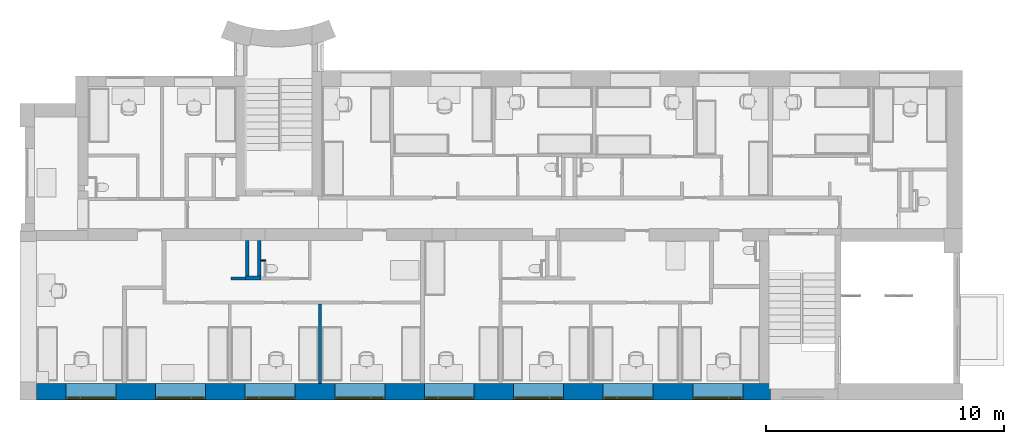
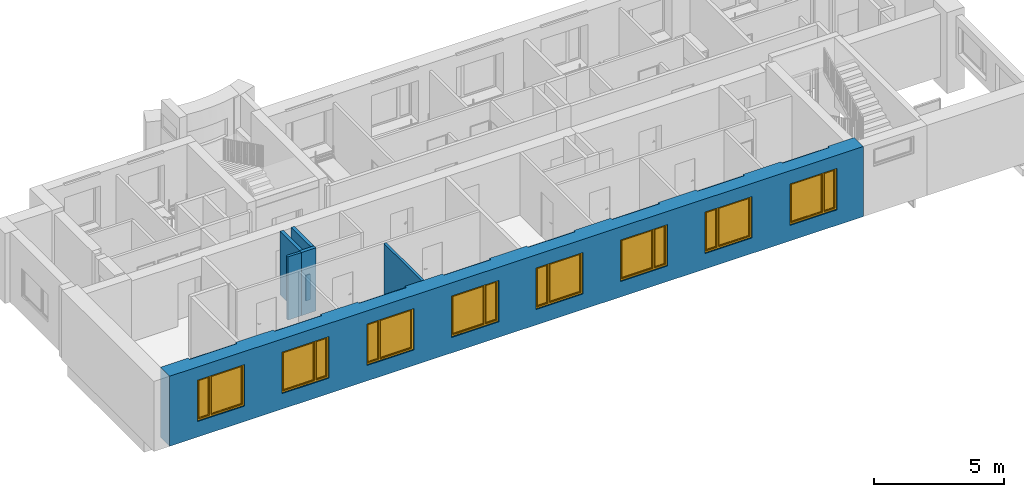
# One storey, part 5 of 46: 8 windows, 7 walls, 10 openings.
"""IFC2X3 building model written with IfcOpenShell, lengths in millimetres."""

from ifc_helpers import new_model, entity, si_unit, converted_unit, derived_unit, direction, frame, frame_2d, origin, place, context, subcontext, project, spatial, rectangle, extrude, faceted_brep, source, transform, mapped, material, material_list, layer, layer_set, layer_usage, type_object, type_shapes, element, fill, save


model = new_model("IFC2X3")

# Units and contexts
model_context = context("Model", 3, precision=0.01, world=origin(), true_north=direction((6.12303176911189e-17, 1.0)))
body_context = subcontext(model_context, "Body", "Model", "MODEL_VIEW")
ifc_project = project(units=[si_unit("LENGTHUNIT", "METRE", prefix="MILLI"), si_unit("AREAUNIT", "SQUARE_METRE"), si_unit("VOLUMEUNIT", "CUBIC_METRE"), converted_unit("PLANEANGLEUNIT", "DEGREE", entity("IfcRatioMeasure", 0.0174532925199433), si_unit("PLANEANGLEUNIT", "RADIAN"), dimensions=[0, 0, 0, 0, 0, 0, 0]), si_unit("MASSUNIT", "GRAM", prefix="KILO"), derived_unit("MASSDENSITYUNIT", [(si_unit("MASSUNIT", "GRAM", prefix="KILO"), 1), (si_unit("LENGTHUNIT", "METRE"), -3)]), si_unit("TIMEUNIT", "SECOND"), si_unit("FREQUENCYUNIT", "HERTZ"), si_unit("THERMODYNAMICTEMPERATUREUNIT", "DEGREE_CELSIUS"), derived_unit("THERMALTRANSMITTANCEUNIT", [(si_unit("MASSUNIT", "GRAM", prefix="KILO"), 1), (si_unit("THERMODYNAMICTEMPERATUREUNIT", "KELVIN"), -1), (si_unit("TIMEUNIT", "SECOND"), -3)]), derived_unit("VOLUMETRICFLOWRATEUNIT", [(si_unit("LENGTHUNIT", "METRE"), 3), (si_unit("TIMEUNIT", "SECOND"), -1)]), si_unit("ELECTRICCURRENTUNIT", "AMPERE"), si_unit("ELECTRICVOLTAGEUNIT", "VOLT"), si_unit("POWERUNIT", "WATT"), si_unit("FORCEUNIT", "NEWTON", prefix="KILO"), si_unit("ILLUMINANCEUNIT", "LUX"), si_unit("LUMINOUSFLUXUNIT", "LUMEN"), si_unit("LUMINOUSINTENSITYUNIT", "CANDELA"), derived_unit("USERDEFINED", [(si_unit("MASSUNIT", "GRAM", prefix="KILO"), -1), (si_unit("LENGTHUNIT", "METRE"), -2), (si_unit("TIMEUNIT", "SECOND"), 3), (si_unit("LUMINOUSFLUXUNIT", "LUMEN"), 1)]), derived_unit("LINEARVELOCITYUNIT", [(si_unit("LENGTHUNIT", "METRE"), 1), (si_unit("TIMEUNIT", "SECOND"), -1)]), si_unit("PRESSUREUNIT", "PASCAL"), derived_unit("USERDEFINED", [(si_unit("LENGTHUNIT", "METRE"), -2), (si_unit("MASSUNIT", "GRAM", prefix="KILO"), 1), (si_unit("TIMEUNIT", "SECOND"), -2)]), derived_unit("LINEARFORCEUNIT", [(si_unit("MASSUNIT", "GRAM", prefix="KILO"), 1), (si_unit("LENGTHUNIT", "METRE"), 1), (si_unit("TIMEUNIT", "SECOND"), -2), (si_unit("LENGTHUNIT", "METRE"), -1)]), derived_unit("PLANARFORCEUNIT", [(si_unit("MASSUNIT", "GRAM", prefix="KILO"), 1), (si_unit("LENGTHUNIT", "METRE"), 1), (si_unit("TIMEUNIT", "SECOND"), -2), (si_unit("LENGTHUNIT", "METRE"), -2)])], contexts=[model_context])

# Site, building, storey
site_placement = place(None, origin())
site = spatial("IfcSite", under=ifc_project, at=site_placement, Name="Default", CompositionType="ELEMENT")
building_placement = place(site_placement, origin())
building = spatial("IfcBuilding", under=site, at=building_placement, Name="SMA ARH", CompositionType="ELEMENT")
storey_placement = place(building_placement, origin())
storey = spatial("IfcBuildingStorey", under=building, at=storey_placement, Name="1 Korrus", CompositionType="ELEMENT", Elevation=0.0)

# Wall, openings, windows
ifc_material_1 = material(Name="_ol.olev sein")
ifc_layer_1 = layer(ifc_material_1, 700.0)
ifc_layer_set_1 = layer_set([ifc_layer_1], Name="Basic Wall:Generic - 700mm")
ifc_layer_usage_1 = layer_usage(ifc_layer_set_1, "AXIS2", "POSITIVE", -350.0)
wall_type_1 = type_object("IfcWallType", Name="Basic Wall:Generic - 700mm", PredefinedType="STANDARD", material=ifc_layer_set_1)
wall_1_placement = place(storey_placement, frame((0.0, -350.0, 0.0)))
wall_1 = element("IfcWallStandardCase", 1, at=wall_1_placement, inside=storey, type_object=wall_type_1, material=ifc_layer_usage_1, Name="Basic Wall:Generic - 700mm", ObjectType="Basic Wall:Generic - 700mm", context=body_context, shape_type="SweptSolid", body=[
    extrude(rectangle(XDim=30900.698001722, YDim=700.0, at=frame_2d((15450.349000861, -2.8421709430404e-14), x_axis=(-1.0, 0.0))), origin(), (0.0, 0.0, 1.0), 3299.99999999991),
])
opening_1_placement = place(wall_1_placement, origin())
element("IfcOpeningElement", 2, at=opening_1_placement, cuts=wall_1, Name="Basic Wall:Generic - 700mm", ObjectType="Recess", context=body_context, shape_type="SweptSolid", body=[
    extrude(rectangle(XDim=761.050000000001, YDim=2098.41008000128, at=frame_2d((-2.1600499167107e-12, 5.6843418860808e-14), x_axis=(0.0, 1.0))), frame((28680.7949599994, 250.0, 319.475), z_axis=(0.0, 1.0, 0.0), x_axis=(1.0, 0.0, 0.0)), (0.0, 0.0, 1.0), 100.0),
    extrude(rectangle(XDim=761.050000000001, YDim=2098.41008000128, at=frame_2d((-2.1600499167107e-12, 5.6843418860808e-14), x_axis=(0.0, 1.0))), frame((24895.7949599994, 250.0, 319.475000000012), z_axis=(0.0, 1.0, 0.0), x_axis=(1.0, 0.0, 0.0)), (0.0, 0.0, 1.0), 100.0),
    extrude(rectangle(XDim=761.050000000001, YDim=2098.41008000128, at=frame_2d((-2.1600499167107e-12, 5.6843418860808e-14), x_axis=(0.0, 1.0))), frame((21130.7949599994, 250.0, 319.475000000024), z_axis=(0.0, 1.0, 0.0), x_axis=(1.0, 0.0, 0.0)), (0.0, 0.0, 1.0), 100.0),
    extrude(rectangle(XDim=761.050000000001, YDim=2098.41008000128, at=frame_2d((0.0, 5.6843418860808e-14), x_axis=(0.0, 1.0))), frame((17370.7949599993, 250.0, 319.475000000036), z_axis=(0.0, 1.0, 0.0), x_axis=(1.0, 0.0, 0.0)), (0.0, 0.0, 1.0), 100.0),
    extrude(rectangle(XDim=761.050000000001, YDim=2098.41008000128, at=frame_2d((2.1600499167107e-12, 5.6843418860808e-14), x_axis=(0.0, 1.0))), frame((13610.7949599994, 250.0, 319.475000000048), z_axis=(0.0, 1.0, 0.0), x_axis=(1.0, 0.0, 0.0)), (0.0, 0.0, 1.0), 100.0),
    extrude(rectangle(XDim=761.050000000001, YDim=2098.41008000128, at=frame_2d((0.0, 5.6843418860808e-14), x_axis=(0.0, 1.0))), frame((9830.79495999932, 250.0, 319.47500000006), z_axis=(0.0, 1.0, 0.0), x_axis=(1.0, 0.0, 0.0)), (0.0, 0.0, 1.0), 100.0),
    extrude(rectangle(XDim=761.050000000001, YDim=2098.41008000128, at=frame_2d((0.0, 5.6843418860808e-14), x_axis=(0.0, 1.0))), frame((6050.79495999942, 250.0, 319.475000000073), z_axis=(0.0, 1.0, 0.0), x_axis=(1.0, 0.0, 0.0)), (0.0, 0.0, 1.0), 100.0),
    extrude(rectangle(XDim=761.050000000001, YDim=2098.41008000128, at=frame_2d((1.13686837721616e-13, 5.6843418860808e-14), x_axis=(0.0, 1.0))), frame((2290.79495999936, 250.0, 319.475000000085), z_axis=(0.0, 1.0, 0.0), x_axis=(1.0, 0.0, 0.0)), (0.0, 0.0, 1.0), 100.0),
    extrude(rectangle(XDim=761.05, YDim=2098.41008000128, at=frame_2d((2.1600499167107e-12, 0.0), x_axis=(0.0, 1.0))), frame((28680.7949599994, 250.0, 3619.47499999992), z_axis=(0.0, 1.0, 0.0), x_axis=(1.0, 0.0, 0.0)), (0.0, 0.0, 1.0), 100.0),
    extrude(rectangle(XDim=761.05, YDim=2098.41008000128, at=frame_2d((-2.1600499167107e-12, 0.0), x_axis=(0.0, 1.0))), frame((24895.7949599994, 250.0, 3619.47499999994), z_axis=(0.0, 1.0, 0.0), x_axis=(1.0, 0.0, 0.0)), (0.0, 0.0, 1.0), 100.0),
    extrude(rectangle(XDim=761.05, YDim=2098.41008000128, at=frame_2d((-2.1600499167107e-12, 0.0), x_axis=(0.0, 1.0))), frame((21110.7949599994, 250.0, 3619.47499999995), z_axis=(0.0, 1.0, 0.0), x_axis=(1.0, 0.0, 0.0)), (0.0, 0.0, 1.0), 100.0),
    extrude(rectangle(XDim=761.05, YDim=2098.41008000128, at=frame_2d((-2.1600499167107e-12, 0.0), x_axis=(0.0, 1.0))), frame((17355.7949599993, 250.0, 3619.47499999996), z_axis=(0.0, 1.0, 0.0), x_axis=(1.0, 0.0, 0.0)), (0.0, 0.0, 1.0), 100.0),
    extrude(rectangle(XDim=761.05, YDim=2098.41008000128, at=frame_2d((2.1600499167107e-12, 0.0), x_axis=(0.0, 1.0))), frame((13610.7949599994, 250.0, 3619.47499999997), z_axis=(0.0, 1.0, 0.0), x_axis=(1.0, 0.0, 0.0)), (0.0, 0.0, 1.0), 100.0),
    extrude(rectangle(XDim=761.05, YDim=2098.41008000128, at=frame_2d((0.0, 0.0), x_axis=(0.0, 1.0))), frame((9830.79495999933, 250.0, 3619.47499999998), z_axis=(0.0, 1.0, 0.0), x_axis=(1.0, 0.0, 0.0)), (0.0, 0.0, 1.0), 100.0),
    extrude(rectangle(XDim=761.05, YDim=2098.41008000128, at=frame_2d((0.0, 0.0), x_axis=(0.0, 1.0))), frame((6070.79495999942, 250.0, 3619.47499999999), z_axis=(0.0, 1.0, 0.0), x_axis=(1.0, 0.0, 0.0)), (0.0, 0.0, 1.0), 100.0),
    extrude(rectangle(XDim=761.05, YDim=2098.41008000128, at=frame_2d((1.13686837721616e-13, 0.0), x_axis=(0.0, 1.0))), frame((2290.79495999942, 250.0, 3619.47500000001), z_axis=(0.0, 1.0, 0.0), x_axis=(1.0, 0.0, 0.0)), (0.0, 0.0, 1.0), 100.0),
])
opening_2_placement = place(wall_1_placement, origin())
element("IfcOpeningElement", 3, at=opening_2_placement, cuts=wall_1, Name="Basic Wall:Generic - 700mm", ObjectType="Opening", context=body_context, shape_type="SweptSolid", body=[
    extrude(rectangle(XDim=820.0, YDim=1800.0, at=frame_2d((0.0, 1.4210854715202e-13), x_axis=(0.0, 1.0))), frame((32250.0, -1404.0, 2600.0), z_axis=(0.0, 1.0, 0.0), x_axis=(-1.0, 0.0, 0.0)), (0.0, 0.0, 1.0), 3048.0),
])
opening_3_placement = place(wall_1_placement, frame((29730.0, 350.0, 730.0)))
opening_3 = element("IfcOpeningElement", 4, at=opening_3_placement, cuts=wall_1, Name="SMA_W2, 2-jaotus:A-00 - 2100x1900:1", ObjectType="Opening", context=body_context, shape_type="SweptSolid", body=[
    extrude(rectangle(XDim=1950.0, YDim=2100.0, at=frame_2d((975.0, 1050.0), x_axis=(1.0, 0.0))), frame((0.0, 0.0, 0.0), z_axis=(0.0, -1.0, 0.0), x_axis=(0.0, 0.0, 1.0)), (0.0, 0.0, 1.0), 700.0),
])
opening_4_placement = place(wall_1_placement, frame((25945.0, 350.0, 730.0)))
opening_4 = element("IfcOpeningElement", 5, at=opening_4_placement, cuts=wall_1, Name="SMA_W2, 2-jaotus:A-00 - 2100x1900:1", ObjectType="Opening", context=body_context, shape_type="SweptSolid", body=[
    extrude(rectangle(XDim=1950.0, YDim=2100.0, at=frame_2d((975.0, 1050.0), x_axis=(1.0, 0.0))), frame((0.0, 0.0, 0.0), z_axis=(0.0, -1.0, 0.0), x_axis=(0.0, 0.0, 1.0)), (0.0, 0.0, 1.0), 700.0),
])
opening_5_placement = place(wall_1_placement, frame((22180.0, 350.0, 730.0)))
opening_5 = element("IfcOpeningElement", 6, at=opening_5_placement, cuts=wall_1, Name="SMA_W2, 2-jaotus:A-00 - 2100x1900:1", ObjectType="Opening", context=body_context, shape_type="SweptSolid", body=[
    extrude(rectangle(XDim=1950.0, YDim=2100.0, at=frame_2d((975.0, 1050.0), x_axis=(1.0, 0.0))), frame((0.0, 0.0, 0.0), z_axis=(0.0, -1.0, 0.0), x_axis=(0.0, 0.0, 1.0)), (0.0, 0.0, 1.0), 700.0),
])
opening_6_placement = place(wall_1_placement, frame((18420.0, 350.0, 730.0)))
opening_6 = element("IfcOpeningElement", 7, at=opening_6_placement, cuts=wall_1, Name="SMA_W2, 2-jaotus:A-00 - 2100x1900:1", ObjectType="Opening", context=body_context, shape_type="SweptSolid", body=[
    extrude(rectangle(XDim=1950.0, YDim=2100.0, at=frame_2d((975.0, 1050.0), x_axis=(1.0, 0.0))), frame((0.0, 0.0, 0.0), z_axis=(0.0, -1.0, 0.0), x_axis=(0.0, 0.0, 1.0)), (0.0, 0.0, 1.0), 700.0),
])
opening_7_placement = place(wall_1_placement, frame((14660.0, 350.0, 730.0)))
opening_7 = element("IfcOpeningElement", 8, at=opening_7_placement, cuts=wall_1, Name="SMA_W2, 2-jaotus:A-00 - 2100x1900:1", ObjectType="Opening", context=body_context, shape_type="SweptSolid", body=[
    extrude(rectangle(XDim=1950.0, YDim=2100.0, at=frame_2d((975.0, 1050.0), x_axis=(1.0, 0.0))), frame((0.0, 0.0, 0.0), z_axis=(0.0, -1.0, 0.0), x_axis=(0.0, 0.0, 1.0)), (0.0, 0.0, 1.0), 700.0),
])
opening_8_placement = place(wall_1_placement, frame((10880.0, 350.0, 730.0)))
opening_8 = element("IfcOpeningElement", 9, at=opening_8_placement, cuts=wall_1, Name="SMA_W2, 2-jaotus:A-00 - 2100x1900:1", ObjectType="Opening", context=body_context, shape_type="SweptSolid", body=[
    extrude(rectangle(XDim=1950.0, YDim=2100.0, at=frame_2d((975.0, 1050.0), x_axis=(1.0, 0.0))), frame((0.0, 0.0, 0.0), z_axis=(0.0, -1.0, 0.0), x_axis=(0.0, 0.0, 1.0)), (0.0, 0.0, 1.0), 700.0),
])
opening_9_placement = place(wall_1_placement, frame((7100.0, 350.0, 730.0)))
opening_9 = element("IfcOpeningElement", 10, at=opening_9_placement, cuts=wall_1, Name="SMA_W2, 2-jaotus:A-00 - 2100x1900:1", ObjectType="Opening", context=body_context, shape_type="SweptSolid", body=[
    extrude(rectangle(XDim=1950.0, YDim=2100.0, at=frame_2d((975.0, 1050.0), x_axis=(1.0, 0.0))), frame((0.0, 0.0, 0.0), z_axis=(0.0, -1.0, 0.0), x_axis=(0.0, 0.0, 1.0)), (0.0, 0.0, 1.0), 700.0),
])
opening_10_placement = place(wall_1_placement, frame((3340.0, 350.0, 730.0)))
opening_10 = element("IfcOpeningElement", 11, at=opening_10_placement, cuts=wall_1, Name="SMA_W2, 2-jaotus:A-00 - 2100x1900:1", ObjectType="Opening", context=body_context, shape_type="SweptSolid", body=[
    extrude(rectangle(XDim=1950.0, YDim=2100.0, at=frame_2d((975.0, 1050.0), x_axis=(1.0, 0.0))), frame((0.0, 0.0, 0.0), z_axis=(0.0, -1.0, 0.0), x_axis=(0.0, 0.0, 1.0)), (0.0, 0.0, 1.0), 700.0),
])
ifc_material_2 = material(Name="Glass")
ifc_material_3 = material(Name="Hall")
ifc_material_list_1 = material_list([ifc_material_2, ifc_material_3])
ifc_material_4 = material(Name="<Unnamed>")
ifc_material_list_2 = material_list([ifc_material_4, ifc_material_3, ifc_material_3, ifc_material_2, ifc_material_4])
window_style_1 = type_object("IfcWindowStyle", Name="SMA_W2, 2-jaotus:A-00 - 2100x1900", ConstructionType="NOTDEFINED", OperationType="NOTDEFINED", ParameterTakesPrecedence=False, Sizeable=False, material=ifc_material_list_2)
shared_shape_1 = source(origin(), body_context, "Body", "Brep", [
    faceted_brep([(1995.0, 590.0, 1845.0), (660.0, 590.0, 1845.0), (660.0, 590.0, 105.0), (1995.0, 590.0, 105.0), (1995.0, 610.0, 105.0), (1995.0, 610.0, 1845.0), (660.0, 610.0, 105.0), (660.0, 610.0, 1845.0)], [[[0, 1, 2, 3]], [[3, 4, 5, 0]], [[2, 6, 4, 3]], [[1, 7, 6, 2]], [[5, 4, 6, 7]], [[0, 5, 7, 1]]]),
    faceted_brep([(520.0, 590.0, 105.0), (520.0, 590.0, 1845.0), (105.0, 590.0, 1845.0), (105.0, 590.0, 105.0), (105.0, 610.0, 105.0), (520.0, 610.0, 105.0), (105.0, 610.0, 1845.0), (520.0, 610.0, 1845.0)], [[[0, 1, 2, 3]], [[3, 4, 5, 0]], [[2, 6, 4, 3]], [[0, 5, 7, 1]], [[5, 4, 6, 7]], [[1, 7, 6, 2]]]),
    faceted_brep([(2065.0, 575.0, 35.0), (2065.0, 575.0, 1915.0), (590.0, 575.0, 1915.0), (590.0, 575.0, 35.0), (660.0, 575.0, 1845.0), (1995.0, 575.0, 1845.0), (1995.0, 575.0, 105.0), (660.0, 575.0, 105.0), (590.0, 625.0, 35.0), (2065.0, 625.0, 35.0), (590.0, 625.0, 1915.0), (2065.0, 625.0, 1915.0), (660.0, 625.0, 105.0), (660.0, 625.0, 1845.0), (1995.0, 625.0, 105.0), (1995.0, 625.0, 1845.0)], [[[0, 1, 2, 3], [4, 5, 6, 7]], [[3, 8, 9, 0]], [[2, 10, 8, 3]], [[0, 9, 11, 1]], [[7, 12, 13, 4]], [[6, 14, 12, 7]], [[5, 15, 14, 6]], [[9, 8, 10, 11], [13, 12, 14, 15]], [[1, 11, 10, 2]], [[4, 13, 15, 5]]]),
    faceted_brep([(590.0, 575.0, 35.0), (590.0, 575.0, 1915.0), (35.0, 575.0, 1915.0), (35.0, 575.0, 35.0), (105.0, 575.0, 1845.0), (520.0, 575.0, 1845.0), (520.0, 575.0, 105.0), (105.0, 575.0, 105.0), (35.0, 625.0, 35.0), (590.0, 625.0, 35.0), (35.0, 625.0, 1915.0), (590.0, 625.0, 1915.0), (105.0, 625.0, 105.0), (105.0, 625.0, 1845.0), (520.0, 625.0, 105.0), (520.0, 625.0, 1845.0)], [[[0, 1, 2, 3], [4, 5, 6, 7]], [[3, 8, 9, 0]], [[2, 10, 8, 3]], [[0, 9, 11, 1]], [[7, 12, 13, 4]], [[6, 14, 12, 7]], [[5, 15, 14, 6]], [[9, 8, 10, 11], [13, 12, 14, 15]], [[1, 11, 10, 2]], [[4, 13, 15, 5]]]),
    faceted_brep([(35.0, 600.0, 35.0), (35.0, 600.0, 1915.0), (590.0, 600.0, 1915.0), (590.0, 600.0, 35.0), (2030.0, 600.0, 1880.0), (2030.0, 600.0, 70.0), (625.0, 600.0, 70.0), (625.0, 600.0, 1880.0), (2100.0, 600.0, 0.0), (2100.0, 600.0, 1950.0), (0.0, 600.0, 1950.0), (0.0, 600.0, 0.0), (0.0, 650.0, 0.0), (2100.0, 650.0, 0.0), (0.0, 650.0, 1950.0), (2100.0, 650.0, 1950.0), (625.0, 650.0, 70.0), (625.0, 650.0, 1880.0), (2030.0, 650.0, 70.0), (2030.0, 650.0, 1880.0), (35.0, 625.0, 35.0), (590.0, 625.0, 35.0), (590.0, 625.0, 1915.0), (35.0, 625.0, 1915.0), (555.0, 650.0, 1880.0), (70.0, 650.0, 1880.0), (70.0, 650.0, 70.0), (555.0, 650.0, 70.0), (555.0, 625.0, 70.0), (555.0, 625.0, 1880.0), (70.0, 625.0, 70.0), (70.0, 625.0, 1880.0)], [[[0, 1, 2, 3], [4, 5, 6, 7], [8, 9, 10, 11]], [[11, 12, 13, 8]], [[10, 14, 12, 11]], [[8, 13, 15, 9]], [[6, 16, 17, 7]], [[5, 18, 16, 6]], [[4, 19, 18, 5]], [[20, 0, 3, 21]], [[21, 3, 2, 22]], [[23, 1, 0, 20]], [[13, 12, 14, 15], [19, 17, 16, 18], [24, 25, 26, 27]], [[27, 28, 29, 24]], [[26, 30, 28, 27]], [[25, 31, 30, 26]], [[21, 22, 23, 20], [29, 28, 30, 31]], [[9, 15, 14, 10]], [[7, 17, 19, 4]], [[22, 2, 1, 23]], [[24, 29, 31, 25]]], outer=[[False, False, True], [True], [True], [True], [True], [True], [True], [True], [True], [True], [True, False, False], [True], [True], [True], [True, False], [True], [True], [True], [True]]),
])
type_shapes(window_style_1, [shared_shape_1])
window_1_placement = place(opening_9_placement, frame((0.0, 0.0, 0.0), z_axis=(0.0, 0.0, 1.0), x_axis=(-1.0, 0.0, 0.0)))
window_1 = element("IfcWindow", 12, at=window_1_placement, inside=storey, type_object=window_style_1, material=ifc_material_list_1, Name="SMA_W2, 2-jaotus:A-00 - 2100x1900", ObjectType="SMA_W2, 2-jaotus:A-00 - 2100x1900", OverallHeight=1950.0, OverallWidth=2100.0, context=body_context, shape_type="MappedRepresentation", body=[
    mapped(shared_shape_1, transform((0.0, 0.0, 0.0), scale=1.0)),
])
fill(opening_9, window_1)
ifc_material_list_3 = material_list([ifc_material_2, ifc_material_3])
window_2_placement = place(opening_7_placement, frame((0.0, 0.0, 0.0), z_axis=(0.0, 0.0, 1.0), x_axis=(-1.0, 0.0, 0.0)))
window_2 = element("IfcWindow", 13, at=window_2_placement, inside=storey, type_object=window_style_1, material=ifc_material_list_3, Name="SMA_W2, 2-jaotus:A-00 - 2100x1900", ObjectType="SMA_W2, 2-jaotus:A-00 - 2100x1900", OverallHeight=1950.0, OverallWidth=2100.0, context=body_context, shape_type="MappedRepresentation", body=[
    mapped(shared_shape_1, transform((0.0, 0.0, 0.0), scale=1.0)),
])
fill(opening_7, window_2)
ifc_material_list_4 = material_list([ifc_material_2, ifc_material_3])
window_3_placement = place(opening_5_placement, frame((0.0, 0.0, 0.0), z_axis=(0.0, 0.0, 1.0), x_axis=(-1.0, 0.0, 0.0)))
window_3 = element("IfcWindow", 14, at=window_3_placement, inside=storey, type_object=window_style_1, material=ifc_material_list_4, Name="SMA_W2, 2-jaotus:A-00 - 2100x1900", ObjectType="SMA_W2, 2-jaotus:A-00 - 2100x1900", OverallHeight=1950.0, OverallWidth=2100.0, context=body_context, shape_type="MappedRepresentation", body=[
    mapped(shared_shape_1, transform((0.0, 0.0, 0.0), scale=1.0)),
])
fill(opening_5, window_3)
ifc_material_list_5 = material_list([ifc_material_2, ifc_material_3])
window_4_placement = place(opening_3_placement, frame((0.0, 0.0, 0.0), z_axis=(0.0, 0.0, 1.0), x_axis=(-1.0, 0.0, 0.0)))
window_4 = element("IfcWindow", 15, at=window_4_placement, inside=storey, type_object=window_style_1, material=ifc_material_list_5, Name="SMA_W2, 2-jaotus:A-00 - 2100x1900", ObjectType="SMA_W2, 2-jaotus:A-00 - 2100x1900", OverallHeight=1950.0, OverallWidth=2100.0, context=body_context, shape_type="MappedRepresentation", body=[
    mapped(shared_shape_1, transform((0.0, 0.0, 0.0), scale=1.0)),
])
fill(opening_3, window_4)
ifc_material_list_6 = material_list([ifc_material_2, ifc_material_3])
ifc_material_list_7 = material_list([ifc_material_3, ifc_material_2, ifc_material_3, ifc_material_4, ifc_material_4])
window_style_2 = type_object("IfcWindowStyle", Name="SMA_W2, 2-jaotus:A-00 - 2100x1900", ConstructionType="NOTDEFINED", OperationType="NOTDEFINED", ParameterTakesPrecedence=False, Sizeable=False, material=ifc_material_list_7)
shared_shape_2 = source(origin(), body_context, "Body", "Brep", [
    faceted_brep([(105.0, 590.0, 1845.0), (105.0, 590.0, 105.0), (1440.0, 590.0, 105.0), (1440.0, 590.0, 1845.0), (105.0, 610.0, 1845.0), (105.0, 610.0, 105.0), (1440.0, 610.0, 105.0), (1440.0, 610.0, 1845.0)], [[[0, 1, 2, 3]], [[1, 0, 4, 5]], [[2, 1, 5, 6]], [[3, 2, 6, 7]], [[4, 7, 6, 5]], [[0, 3, 7, 4]]]),
    faceted_brep([(1580.0, 590.0, 105.0), (1995.0, 590.0, 105.0), (1995.0, 590.0, 1845.0), (1580.0, 590.0, 1845.0), (1580.0, 610.0, 105.0), (1995.0, 610.0, 105.0), (1995.0, 610.0, 1845.0), (1580.0, 610.0, 1845.0)], [[[0, 1, 2, 3]], [[1, 0, 4, 5]], [[2, 1, 5, 6]], [[0, 3, 7, 4]], [[4, 7, 6, 5]], [[3, 2, 6, 7]]]),
    faceted_brep([(35.0, 575.0, 35.0), (1510.0, 575.0, 35.0), (1510.0, 575.0, 1915.0), (35.0, 575.0, 1915.0), (1440.0, 575.0, 1845.0), (1440.0, 575.0, 105.0), (105.0, 575.0, 105.0), (105.0, 575.0, 1845.0), (35.0, 625.0, 35.0), (1510.0, 625.0, 35.0), (1510.0, 625.0, 1915.0), (35.0, 625.0, 1915.0), (1440.0, 625.0, 1845.0), (1440.0, 625.0, 105.0), (105.0, 625.0, 105.0), (105.0, 625.0, 1845.0)], [[[0, 1, 2, 3], [4, 5, 6, 7]], [[1, 0, 8, 9]], [[2, 1, 9, 10]], [[0, 3, 11, 8]], [[5, 4, 12, 13]], [[6, 5, 13, 14]], [[7, 6, 14, 15]], [[8, 11, 10, 9], [12, 15, 14, 13]], [[3, 2, 10, 11]], [[4, 7, 15, 12]]]),
    faceted_brep([(1510.0, 575.0, 35.0), (2065.0, 575.0, 35.0), (2065.0, 575.0, 1915.0), (1510.0, 575.0, 1915.0), (1995.0, 575.0, 1845.0), (1995.0, 575.0, 105.0), (1580.0, 575.0, 105.0), (1580.0, 575.0, 1845.0), (1510.0, 625.0, 35.0), (2065.0, 625.0, 35.0), (2065.0, 625.0, 1915.0), (1510.0, 625.0, 1915.0), (1995.0, 625.0, 1845.0), (1995.0, 625.0, 105.0), (1580.0, 625.0, 105.0), (1580.0, 625.0, 1845.0)], [[[0, 1, 2, 3], [4, 5, 6, 7]], [[1, 0, 8, 9]], [[2, 1, 9, 10]], [[0, 3, 11, 8]], [[5, 4, 12, 13]], [[6, 5, 13, 14]], [[7, 6, 14, 15]], [[8, 11, 10, 9], [12, 15, 14, 13]], [[3, 2, 10, 11]], [[4, 7, 15, 12]]]),
    faceted_brep([(0.0, 600.0, 0.0), (2100.0, 600.0, 0.0), (2100.0, 600.0, 1950.0), (0.0, 600.0, 1950.0), (2065.0, 600.0, 35.0), (1510.0, 600.0, 35.0), (1510.0, 600.0, 1915.0), (2065.0, 600.0, 1915.0), (70.0, 600.0, 1880.0), (1475.0, 600.0, 1880.0), (1475.0, 600.0, 70.0), (70.0, 600.0, 70.0), (0.0, 650.0, 0.0), (2100.0, 650.0, 0.0), (2100.0, 650.0, 1950.0), (0.0, 650.0, 1950.0), (1475.0, 650.0, 1880.0), (1475.0, 650.0, 70.0), (70.0, 650.0, 70.0), (70.0, 650.0, 1880.0), (2065.0, 625.0, 35.0), (1510.0, 625.0, 35.0), (1510.0, 625.0, 1915.0), (2065.0, 625.0, 1915.0), (1545.0, 650.0, 1880.0), (1545.0, 650.0, 70.0), (2030.0, 650.0, 70.0), (2030.0, 650.0, 1880.0), (1545.0, 625.0, 1880.0), (1545.0, 625.0, 70.0), (2030.0, 625.0, 70.0), (2030.0, 625.0, 1880.0)], [[[0, 1, 2, 3], [4, 5, 6, 7], [8, 9, 10, 11]], [[1, 0, 12, 13]], [[2, 1, 13, 14]], [[0, 3, 15, 12]], [[10, 9, 16, 17]], [[11, 10, 17, 18]], [[8, 11, 18, 19]], [[20, 21, 5, 4]], [[21, 22, 6, 5]], [[23, 20, 4, 7]], [[12, 15, 14, 13], [19, 18, 17, 16], [24, 25, 26, 27]], [[25, 24, 28, 29]], [[26, 25, 29, 30]], [[27, 26, 30, 31]], [[21, 20, 23, 22], [28, 31, 30, 29]], [[3, 2, 14, 15]], [[9, 8, 19, 16]], [[22, 23, 7, 6]], [[24, 27, 31, 28]]]),
])
type_shapes(window_style_2, [shared_shape_2])
window_5_placement = place(opening_10_placement, frame((0.0, 0.0, 0.0), z_axis=(0.0, 0.0, 1.0), x_axis=(-1.0, 0.0, 0.0)))
window_5 = element("IfcWindow", 16, at=window_5_placement, inside=storey, type_object=window_style_2, material=ifc_material_list_6, Name="SMA_W2, 2-jaotus:A-00 - 2100x1900", ObjectType="SMA_W2, 2-jaotus:A-00 - 2100x1900", OverallHeight=1950.0, OverallWidth=2100.0, context=body_context, shape_type="MappedRepresentation", body=[
    mapped(shared_shape_2, transform((0.0, 0.0, 0.0), scale=1.0)),
])
fill(opening_10, window_5)
ifc_material_list_8 = material_list([ifc_material_2, ifc_material_3])
window_6_placement = place(opening_8_placement, frame((0.0, 0.0, 0.0), z_axis=(0.0, 0.0, 1.0), x_axis=(-1.0, 0.0, 0.0)))
window_6 = element("IfcWindow", 17, at=window_6_placement, inside=storey, type_object=window_style_2, material=ifc_material_list_8, Name="SMA_W2, 2-jaotus:A-00 - 2100x1900", ObjectType="SMA_W2, 2-jaotus:A-00 - 2100x1900", OverallHeight=1950.0, OverallWidth=2100.0, context=body_context, shape_type="MappedRepresentation", body=[
    mapped(shared_shape_2, transform((0.0, 0.0, 0.0), scale=1.0)),
])
fill(opening_8, window_6)
ifc_material_list_9 = material_list([ifc_material_2, ifc_material_3])
window_7_placement = place(opening_6_placement, frame((0.0, 0.0, 0.0), z_axis=(0.0, 0.0, 1.0), x_axis=(-1.0, 0.0, 0.0)))
window_7 = element("IfcWindow", 18, at=window_7_placement, inside=storey, type_object=window_style_2, material=ifc_material_list_9, Name="SMA_W2, 2-jaotus:A-00 - 2100x1900", ObjectType="SMA_W2, 2-jaotus:A-00 - 2100x1900", OverallHeight=1950.0, OverallWidth=2100.0, context=body_context, shape_type="MappedRepresentation", body=[
    mapped(shared_shape_2, transform((0.0, 0.0, 0.0), scale=1.0)),
])
fill(opening_6, window_7)
ifc_material_list_10 = material_list([ifc_material_2, ifc_material_3])
window_8_placement = place(opening_4_placement, frame((0.0, 0.0, 0.0), z_axis=(0.0, 0.0, 1.0), x_axis=(-1.0, 0.0, 0.0)))
window_8 = element("IfcWindow", 19, at=window_8_placement, inside=storey, type_object=window_style_2, material=ifc_material_list_10, Name="SMA_W2, 2-jaotus:A-00 - 2100x1900", ObjectType="SMA_W2, 2-jaotus:A-00 - 2100x1900", OverallHeight=1950.0, OverallWidth=2100.0, context=body_context, shape_type="MappedRepresentation", body=[
    mapped(shared_shape_2, transform((0.0, 0.0, 0.0), scale=1.0)),
])
fill(opening_4, window_8)

# Walls
ifc_material_5 = material(Name="EST. Müüritis. Väikeplokk. Kergkruusplokk")
ifc_layer_2 = layer(ifc_material_5, 150.0)
ifc_layer_set_2 = layer_set([ifc_layer_2], Name="Basic Wall:SS-02_ 150mm šahtide vahesein")
ifc_layer_usage_2 = layer_usage(ifc_layer_set_2, "AXIS2", "NEGATIVE", 75.0)
wall_type_2 = type_object("IfcWallType", Name="Basic Wall:SS-02_ 150mm šahtide vahesein", PredefinedType="STANDARD", material=ifc_layer_set_2)
wall_2_placement = place(storey_placement, frame((8790.0, 4435.0, 0.0)))
element("IfcWallStandardCase", 20, at=wall_2_placement, inside=storey, type_object=wall_type_2, material=ifc_layer_usage_2, Name="Basic Wall:SS-02_ 150mm šahtide vahesein", ObjectType="Basic Wall:SS-02_ 150mm šahtide vahesein", context=body_context, shape_type="SweptSolid", body=[
    extrude(rectangle(XDim=650.000000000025, YDim=150.000000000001, at=frame_2d((325.000000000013, -7.105427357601e-14), x_axis=(-1.0, 0.0))), origin(), (0.0, 0.0, 1.0), 2979.99999999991),
])
ifc_layer_usage_3 = layer_usage(ifc_layer_set_2, "AXIS2", "NEGATIVE", 75.0)
wall_3_placement = place(storey_placement, frame((9365.0, 4510.0, 0.0), z_axis=(0.0, 0.0, 1.0), x_axis=(0.0, 1.0, 0.0)))
element("IfcWallStandardCase", 21, at=wall_3_placement, inside=storey, type_object=wall_type_2, material=ifc_layer_usage_3, Name="Basic Wall:SS-02_ 150mm šahtide vahesein", ObjectType="Basic Wall:SS-02_ 150mm šahtide vahesein", context=body_context, shape_type="SweptSolid", body=[
    extrude(rectangle(XDim=1500.00000000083, YDim=150.000000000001, at=frame_2d((750.000000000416, 0.0), x_axis=(-1.0, 0.0))), origin(), (0.0, 0.0, 1.0), 2989.99999999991),
])
ifc_layer_usage_4 = layer_usage(ifc_layer_set_2, "AXIS2", "POSITIVE", -75.0)
wall_4_placement = place(storey_placement, frame((8865.0, 4510.0, 0.0), z_axis=(0.0, 0.0, 1.0), x_axis=(0.0, 1.0, 0.0)))
element("IfcWallStandardCase", 22, at=wall_4_placement, inside=storey, type_object=wall_type_2, material=ifc_layer_usage_4, Name="Basic Wall:SS-02_ 150mm šahtide vahesein", ObjectType="Basic Wall:SS-02_ 150mm šahtide vahesein", context=body_context, shape_type="SweptSolid", body=[
    extrude(rectangle(XDim=1500.00000000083, YDim=150.000000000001, at=frame_2d((750.000000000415, 0.0), x_axis=(-1.0, 0.0))), origin(), (0.0, 0.0, 1.0), 2979.99999999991),
])
ifc_material_6 = material(Name="EST. Ehitusplaat. Kipsplaat")
ifc_layer_3 = layer(ifc_material_6, 12.5)
ifc_layer_4 = layer(ifc_material_6, 12.5)
ifc_material_7 = material(Name="EST. Soojustus. Mineraalvill. Default")
ifc_layer_5 = layer(ifc_material_7, 66.0)
ifc_layer_6 = layer(ifc_material_6, 12.5)
ifc_layer_7 = layer(ifc_material_6, 12.5)
ifc_layer_set_3 = layer_set([ifc_layer_3, ifc_layer_4, ifc_layer_5, ifc_layer_6, ifc_layer_7], Name="Basic Wall:SS-05_Kips, 66mm metallkarkass")
ifc_layer_usage_5 = layer_usage(ifc_layer_set_3, "AXIS2", "NEGATIVE", 58.0)
wall_type_3 = type_object("IfcWallType", Name="Basic Wall:SS-05_Kips, 66mm metallkarkass", PredefinedType="STANDARD", material=ifc_layer_set_3)
wall_5_placement = place(storey_placement, frame((11930.0, 0.0, 0.0), z_axis=(0.0, 0.0, 1.0), x_axis=(0.0, 1.0, 0.0)))
element("IfcWallStandardCase", 23, at=wall_5_placement, inside=storey, type_object=wall_type_3, material=ifc_layer_usage_5, Name="Basic Wall:SS-05_Kips, 66mm metallkarkass", ObjectType="Basic Wall:SS-05_Kips, 66mm metallkarkass", context=body_context, shape_type="SweptSolid", body=[
    extrude(rectangle(XDim=3344.00000000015, YDim=116.0, at=frame_2d((1672.00000000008, 1.4210854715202e-14), x_axis=(-1.0, 0.0))), origin(), (0.0, 0.0, 1.0), 2949.99999999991),
])
ifc_layer_8 = layer(ifc_material_6, 12.5)
ifc_layer_9 = layer(ifc_material_6, 12.5)
ifc_material_8 = material(Name="EST. Õhkvahe. Roov. Kipsplaadi alusroov. Vertikaalne")
ifc_layer_10 = layer(ifc_material_8, 66.0)
ifc_layer_11 = layer(ifc_material_6, 12.5)
ifc_layer_12 = layer(ifc_material_6, 12.5)
ifc_layer_set_4 = layer_set([ifc_layer_8, ifc_layer_9, ifc_layer_10, ifc_layer_11, ifc_layer_12], Name="Basic Wall:SS-03_Kips, 66mm metallkarkass")
ifc_layer_usage_6 = layer_usage(ifc_layer_set_4, "AXIS2", "POSITIVE", -58.0)
wall_type_4 = type_object("IfcWallType", Name="Basic Wall:SS-03_Kips, 66mm metallkarkass", PredefinedType="STANDARD", material=ifc_layer_set_4)
wall_6_placement = place(storey_placement, frame((8790.0, 4418.0, 0.0), z_axis=(0.0, 0.0, 1.0), x_axis=(-1.0, 0.0, 0.0)))
element("IfcWallStandardCase", 24, at=wall_6_placement, inside=storey, type_object=wall_type_4, material=ifc_layer_usage_6, Name="Basic Wall:SS-03_Kips, 66mm metallkarkass", ObjectType="Basic Wall:SS-03_Kips, 66mm metallkarkass", context=body_context, shape_type="SweptSolid", body=[
    extrude(rectangle(XDim=600.000000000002, YDim=116.0, at=frame_2d((300.000000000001, 0.0), x_axis=(-1.0, 0.0))), origin(), (0.0, 0.0, 1.0), 2979.99999999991),
])
ifc_material_9 = material(Name="EST. Põrand. Plaatkate")
ifc_layer_13 = layer(ifc_material_9, 10.0)
ifc_layer_14 = layer(ifc_material_6, 12.5)
ifc_layer_15 = layer(ifc_material_8, 42.0)
ifc_layer_set_5 = layer_set([ifc_layer_13, ifc_layer_14, ifc_layer_15], Name="Basic Wall:SS-04 - loputuskast")
ifc_layer_usage_7 = layer_usage(ifc_layer_set_5, "AXIS2", "POSITIVE", -32.25)
wall_type_5 = type_object("IfcWallType", Name="Basic Wall:SS-04 - loputuskast", PredefinedType="STANDARD", material=ifc_layer_set_5)
wall_7_placement = place(storey_placement, frame((9640.0, 5160.74999999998, 0.0), z_axis=(0.0, 0.0, 1.0), x_axis=(-1.0, 0.0, 0.0)))
element("IfcWallStandardCase", 25, at=wall_7_placement, inside=storey, type_object=wall_type_5, material=ifc_layer_usage_7, Name="Basic Wall:SS-04 - loputuskast", ObjectType="Basic Wall:SS-04 - loputuskast", context=body_context, shape_type="SweptSolid", body=[
    extrude(rectangle(XDim=199.999999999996, YDim=64.5000000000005, at=frame_2d((99.9999999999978, 0.0), x_axis=(-1.0, 0.0))), origin(), (0.0, 0.0, 1.0), 1200.0),
])

save(model, "model.ifc")
